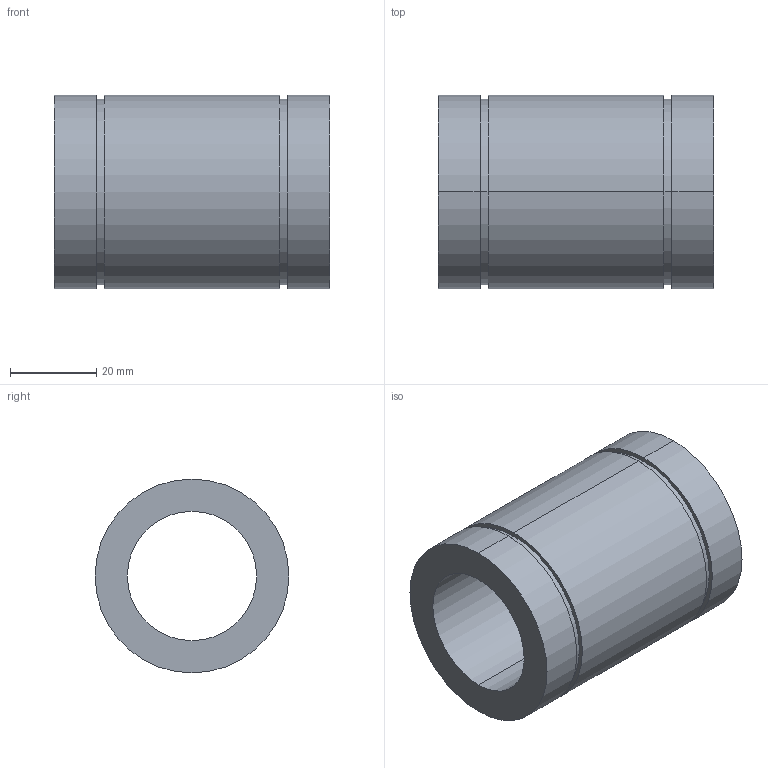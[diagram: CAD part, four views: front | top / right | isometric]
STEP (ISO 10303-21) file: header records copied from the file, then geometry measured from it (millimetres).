
FILE_DESCRIPTION (( 'STEP AP214' ), '1' );
FILE_NAME ('2.7012 Lineaarilaakeri LM30UU.STEP', '2024-06-17T07:44:47', ( '' ), ( '' ), 'SwSTEP 2.0', 'SolidWorks 2024', '' );
FILE_SCHEMA (( 'AUTOMOTIVE_DESIGN' ));
Length unit declared in the file: millimetre
Products named in the file (1): 2.7012 Lineaarilaakeri LM30UU
Bounding box: 64 x 45 x 45 mm (x, y, z)
Volume: 56037.2 mm3; surface area: 17376.5 mm2
Topology: 1 solids, 1 shells, 18 faces, 36 edges, 24 vertices
Faces by surface type: cylinder 12, plane 6
Entity records: 511 total; most frequent: DIRECTION 98, CARTESIAN_POINT 79, ORIENTED_EDGE 72, AXIS2_PLACEMENT_3D 43, EDGE_CURVE 36, EDGE_LOOP 24, VERTEX_POINT 24, CIRCLE 24
